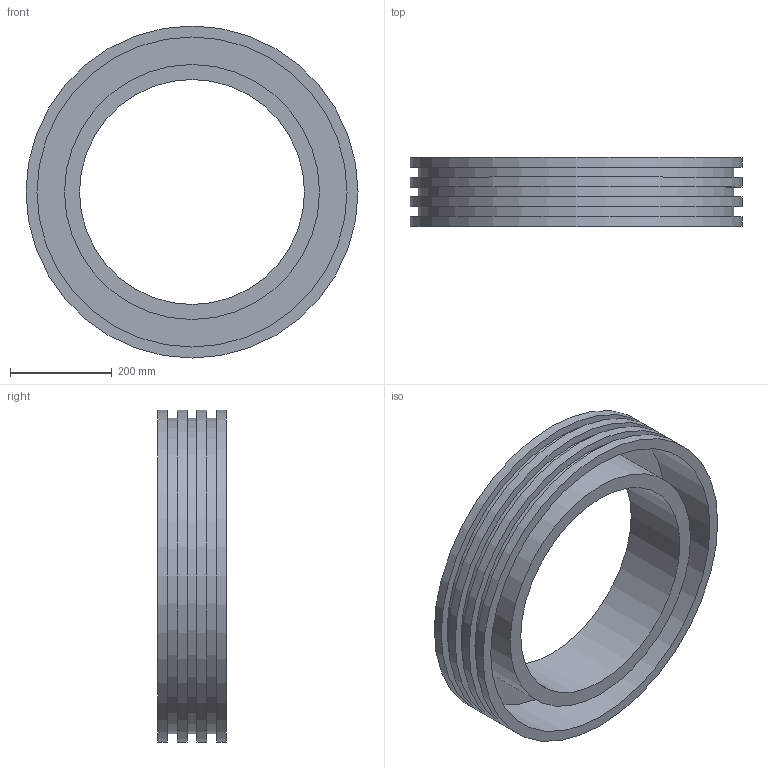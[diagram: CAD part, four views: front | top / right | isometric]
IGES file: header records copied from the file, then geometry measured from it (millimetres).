
Global section: file name: 37020500.ipt; native system: Autodesk Inventor 2015; preprocessor: unknown; author: Кирилл,,11,0; organization: 20170830.190241; date: 20171106.093321; units: millimetre
Bounding box: 651 x 135 x 651 mm (x, y, z)
Volume: 10655317.1 mm3; surface area: 1448504.7 mm2
Topology: 1 solids, 1 shells, 20 faces, 34 edges, 24 vertices
Faces by surface type: plane 10, cylinder 8, revolution 2
Full cylindrical faces by diameter (mm): 500 x1, 618.45 x3, 651 x4
